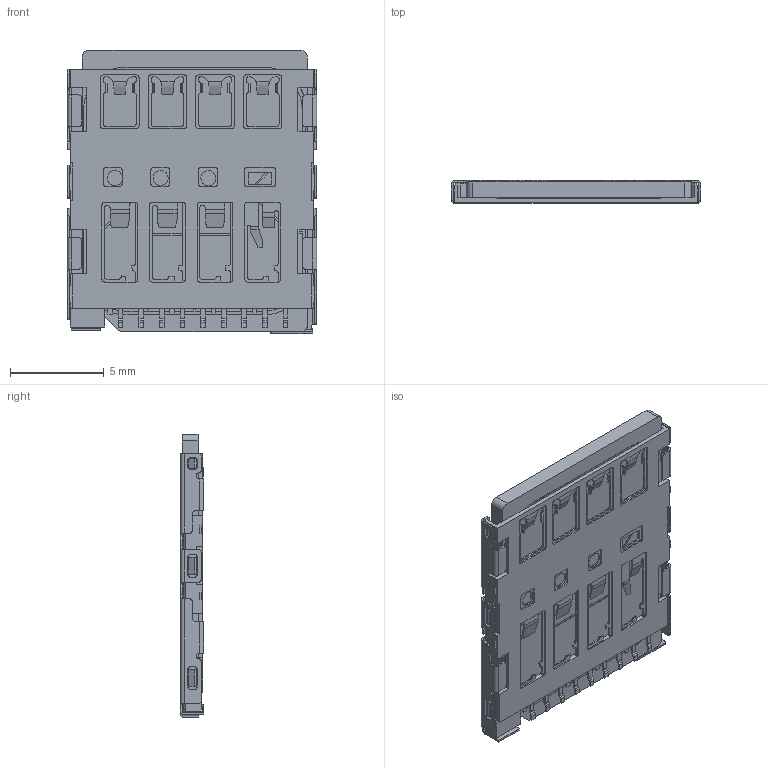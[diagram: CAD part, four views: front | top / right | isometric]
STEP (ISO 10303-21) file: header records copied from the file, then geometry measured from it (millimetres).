
FILE_DESCRIPTION((''),'2;1');
FILE_NAME('SIM_ASM_1_ASM_10_ASM','2015-11-02T',('hp'),(''),'PRO/ENGINEER BY PARAMETRIC TECHNOLOGY CORPORATION, 2009220','PRO/ENGINEER BY PARAMETRIC TECHNOLOGY CORPORATION, 2009220','');
FILE_SCHEMA(('CONFIG_CONTROL_DESIGN'));
Length unit declared in the file: millimetre
Products named in the file (1): SIM_ASM_1_ASM_10_ASM
Bounding box: 13.3 x 1.24 x 15.1 mm (x, y, z)
Volume: 197.8 mm3; surface area: 628.6 mm2
Topology: 1 solids, 1 shells, 1201 faces, 3364 edges, 2212 vertices
Faces by surface type: plane 737, cylinder 402, bspline 34, torus 16, extrusion 12
Entity records: 40271 total; most frequent: CARTESIAN_POINT 8730, ORIENTED_EDGE 6728, DIRECTION 6433, EDGE_CURVE 3364, VECTOR 2415, LINE 2403, VERTEX_POINT 2212, AXIS2_PLACEMENT_3D 2009
